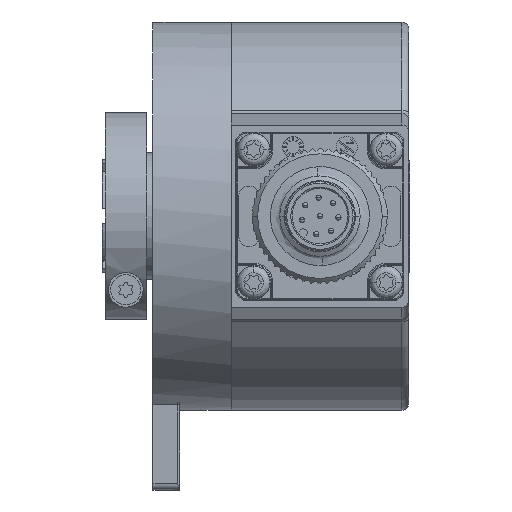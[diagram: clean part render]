
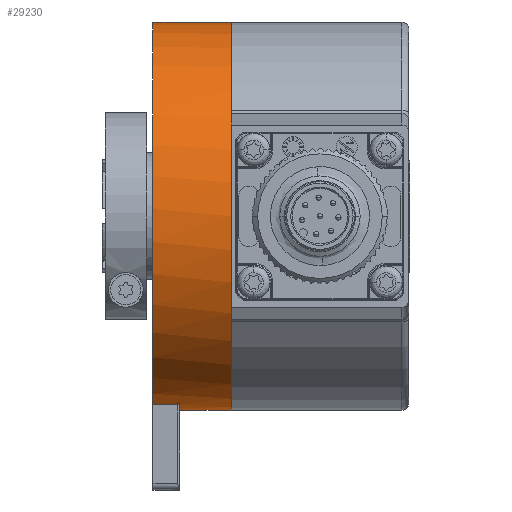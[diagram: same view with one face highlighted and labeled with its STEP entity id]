
A CAD part, front view. The second image highlights one B-rep face of the part: STEP entity #29230.
In plain terms, the highlighted cylindrical face has radius 29 mm (diameter 58 mm), a partial arc.
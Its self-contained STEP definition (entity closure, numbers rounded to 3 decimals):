
#406 = DIRECTION ( 'NONE',  ( 0., 0., -1. ) ) ;
#926 = CARTESIAN_POINT ( 'NONE',  ( 8.068, 25.423, 29. ) ) ;
#1066 = LINE ( 'NONE', #5871, #33531 ) ;
#1317 = VERTEX_POINT ( 'NONE', #926 ) ;
#2368 = VECTOR ( 'NONE', #35270, 1000. ) ;
#2914 = VERTEX_POINT ( 'NONE', #11787 ) ;
#3203 = CARTESIAN_POINT ( 'NONE',  ( 8.068, 25.423, 0. ) ) ;
#3946 = DIRECTION ( 'NONE',  ( 1., 0., 0. ) ) ;
#4522 = LINE ( 'NONE', #19742, #2368 ) ;
#4557 = VERTEX_POINT ( 'NONE', #44253 ) ;
#5112 = DIRECTION ( 'NONE',  ( 0., 0., -1. ) ) ;
#5700 = ORIENTED_EDGE ( 'NONE', *, *, #49500, .T. ) ;
#5871 = CARTESIAN_POINT ( 'NONE',  ( 8.068, 25.423, 29. ) ) ;
#10213 = EDGE_CURVE ( 'NONE', #4557, #42291, #36027, .T. ) ;
#10703 = DIRECTION ( 'NONE',  ( 1., 0., 0. ) ) ;
#10806 = EDGE_CURVE ( 'NONE', #10907, #21025, #23893, .T. ) ;
#10907 = VERTEX_POINT ( 'NONE', #32135 ) ;
#11787 = CARTESIAN_POINT ( 'NONE',  ( 8.068, 25.423, -29. ) ) ;
#11796 = AXIS2_PLACEMENT_3D ( 'NONE', #13747, #10703, #25420 ) ;
#13747 = CARTESIAN_POINT ( 'NONE',  ( 0.378, 25.423, 0. ) ) ;
#15316 = AXIS2_PLACEMENT_3D ( 'NONE', #37560, #18225, #5112 ) ;
#16027 = LINE ( 'NONE', #46319, #24107 ) ;
#16060 = EDGE_CURVE ( 'NONE', #4557, #21025, #4522, .T. ) ;
#16104 = CIRCLE ( 'NONE', #15316, 29. ) ;
#16623 = ORIENTED_EDGE ( 'NONE', *, *, #10806, .T. ) ;
#18225 = DIRECTION ( 'NONE',  ( 1., 0., 0. ) ) ;
#18926 = FACE_OUTER_BOUND ( 'NONE', #38657, .T. ) ;
#19662 = ORIENTED_EDGE ( 'NONE', *, *, #19838, .F. ) ;
#19742 = CARTESIAN_POINT ( 'NONE',  ( 8.068, 18.423, -28.142 ) ) ;
#19838 = EDGE_CURVE ( 'NONE', #1317, #2914, #16104, .T. ) ;
#20118 = AXIS2_PLACEMENT_3D ( 'NONE', #3203, #3946, #31132 ) ;
#21025 = VERTEX_POINT ( 'NONE', #34058 ) ;
#23893 = CIRCLE ( 'NONE', #49896, 29. ) ;
#23983 = CARTESIAN_POINT ( 'NONE',  ( -3.622, 25.423, 0. ) ) ;
#24107 = VECTOR ( 'NONE', #42718, 1000. ) ;
#25420 = DIRECTION ( 'NONE',  ( 0., 0., 1. ) ) ;
#25553 = EDGE_CURVE ( 'NONE', #10907, #1317, #1066, .T. ) ;
#26385 = ORIENTED_EDGE ( 'NONE', *, *, #25553, .F. ) ;
#29230 = ADVANCED_FACE ( 'NONE', ( #18926 ), #46387, .T. ) ;
#30013 = CARTESIAN_POINT ( 'NONE',  ( 0.378, 25.423, -29. ) ) ;
#31132 = DIRECTION ( 'NONE',  ( 0., 0., -1. ) ) ;
#31637 = DIRECTION ( 'NONE',  ( 1., 0., 0. ) ) ;
#32135 = CARTESIAN_POINT ( 'NONE',  ( -3.622, 25.423, 29. ) ) ;
#33531 = VECTOR ( 'NONE', #44212, 1000. ) ;
#33759 = ORIENTED_EDGE ( 'NONE', *, *, #16060, .F. ) ;
#34058 = CARTESIAN_POINT ( 'NONE',  ( -3.622, 18.423, -28.142 ) ) ;
#35270 = DIRECTION ( 'NONE',  ( -1., 0., 0. ) ) ;
#36027 = CIRCLE ( 'NONE', #11796, 29. ) ;
#37560 = CARTESIAN_POINT ( 'NONE',  ( 8.068, 25.423, 0. ) ) ;
#38657 = EDGE_LOOP ( 'NONE', ( #26385, #16623, #33759, #47639, #5700, #19662 ) ) ;
#42291 = VERTEX_POINT ( 'NONE', #30013 ) ;
#42718 = DIRECTION ( 'NONE',  ( 1., 0., 0. ) ) ;
#44212 = DIRECTION ( 'NONE',  ( 1., 0., 0. ) ) ;
#44253 = CARTESIAN_POINT ( 'NONE',  ( 0.378, 18.423, -28.142 ) ) ;
#46319 = CARTESIAN_POINT ( 'NONE',  ( 8.068, 25.423, -29. ) ) ;
#46387 = CYLINDRICAL_SURFACE ( 'NONE', #20118, 29. ) ;
#47639 = ORIENTED_EDGE ( 'NONE', *, *, #10213, .T. ) ;
#49500 = EDGE_CURVE ( 'NONE', #42291, #2914, #16027, .T. ) ;
#49896 = AXIS2_PLACEMENT_3D ( 'NONE', #23983, #31637, #406 ) ;
